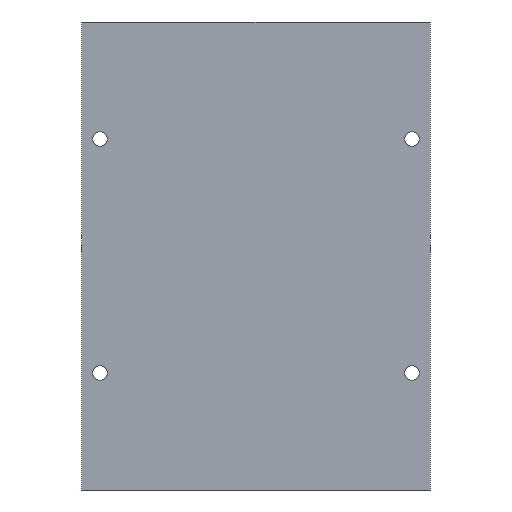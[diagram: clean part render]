
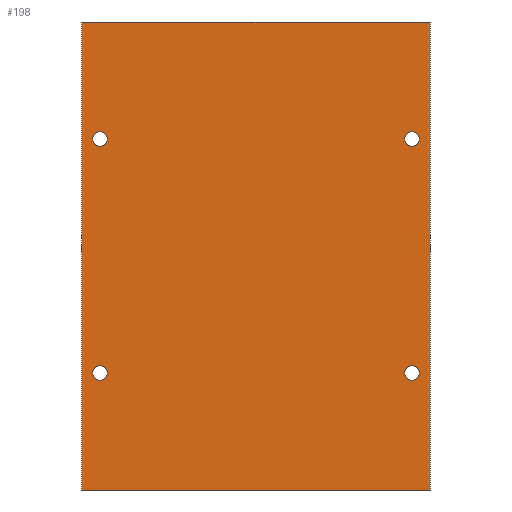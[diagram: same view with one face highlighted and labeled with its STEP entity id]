
A CAD part, front view. The second image highlights one B-rep face of the part: STEP entity #198.
In plain terms, the highlighted planar face has unit normal (0, -1, 0).
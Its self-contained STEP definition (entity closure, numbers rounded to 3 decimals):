
#5 = ORIENTED_EDGE ( 'NONE', *, *, #777, .T. ) ;
#7 = CIRCLE ( 'NONE', #431, 2.65 ) ;
#25 = CARTESIAN_POINT ( 'NONE',  ( -62.5, -3., 168. ) ) ;
#30 = ORIENTED_EDGE ( 'NONE', *, *, #304, .F. ) ;
#42 = ORIENTED_EDGE ( 'NONE', *, *, #496, .T. ) ;
#46 = VERTEX_POINT ( 'NONE', #661 ) ;
#51 = VERTEX_POINT ( 'NONE', #446 ) ;
#52 = VERTEX_POINT ( 'NONE', #376 ) ;
#79 = EDGE_CURVE ( 'NONE', #403, #707, #191, .T. ) ;
#88 = DIRECTION ( 'NONE',  ( 0., 0., 1. ) ) ;
#91 = CIRCLE ( 'NONE', #765, 2.65 ) ;
#96 = EDGE_CURVE ( 'NONE', #51, #553, #632, .T. ) ;
#99 = ORIENTED_EDGE ( 'NONE', *, *, #375, .T. ) ;
#112 = CARTESIAN_POINT ( 'NONE',  ( 56., -3., 42. ) ) ;
#113 = FACE_BOUND ( 'NONE', #878, .T. ) ;
#134 = FACE_BOUND ( 'NONE', #319, .T. ) ;
#147 = VECTOR ( 'NONE', #288, 1000. ) ;
#148 = DIRECTION ( 'NONE',  ( 0., 0., 1. ) ) ;
#151 = VERTEX_POINT ( 'NONE', #613 ) ;
#162 = CARTESIAN_POINT ( 'NONE',  ( 56., -3., 126. ) ) ;
#167 = PLANE ( 'NONE',  #309 ) ;
#184 = DIRECTION ( 'NONE',  ( 1., 0., 0. ) ) ;
#191 = CIRCLE ( 'NONE', #599, 2.65 ) ;
#194 = VERTEX_POINT ( 'NONE', #872 ) ;
#198 = ADVANCED_FACE ( 'NONE', ( #134, #885, #671, #113, #862 ), #167, .F. ) ;
#236 = CARTESIAN_POINT ( 'NONE',  ( 56., -3., 126. ) ) ;
#253 = CARTESIAN_POINT ( 'NONE',  ( -62.5, -3., 168. ) ) ;
#256 = LINE ( 'NONE', #25, #785 ) ;
#260 = CARTESIAN_POINT ( 'NONE',  ( -56., -3., 42. ) ) ;
#277 = EDGE_CURVE ( 'NONE', #52, #649, #7, .T. ) ;
#288 = DIRECTION ( 'NONE',  ( 0., 0., -1. ) ) ;
#293 = EDGE_LOOP ( 'NONE', ( #99, #608 ) ) ;
#295 = VERTEX_POINT ( 'NONE', #552 ) ;
#300 = AXIS2_PLACEMENT_3D ( 'NONE', #936, #786, #357 ) ;
#304 = EDGE_CURVE ( 'NONE', #46, #194, #256, .T. ) ;
#309 = AXIS2_PLACEMENT_3D ( 'NONE', #253, #667, #88 ) ;
#311 = DIRECTION ( 'NONE',  ( 0., 0., 1. ) ) ;
#314 = DIRECTION ( 'NONE',  ( 0., 1., 0. ) ) ;
#319 = EDGE_LOOP ( 'NONE', ( #722, #739 ) ) ;
#323 = LINE ( 'NONE', #903, #462 ) ;
#330 = EDGE_CURVE ( 'NONE', #194, #151, #323, .T. ) ;
#334 = DIRECTION ( 'NONE',  ( 0., 0., 1. ) ) ;
#341 = CARTESIAN_POINT ( 'NONE',  ( -62.5, -3., 168. ) ) ;
#348 = DIRECTION ( 'NONE',  ( 0., 1., 0. ) ) ;
#349 = AXIS2_PLACEMENT_3D ( 'NONE', #236, #449, #148 ) ;
#357 = DIRECTION ( 'NONE',  ( 0., 0., 1. ) ) ;
#365 = CIRCLE ( 'NONE', #628, 2.65 ) ;
#366 = CARTESIAN_POINT ( 'NONE',  ( -56., -3., 126. ) ) ;
#369 = CARTESIAN_POINT ( 'NONE',  ( -62.5, -3., 0. ) ) ;
#375 = EDGE_CURVE ( 'NONE', #707, #403, #91, .T. ) ;
#376 = CARTESIAN_POINT ( 'NONE',  ( 56., -3., 39.35 ) ) ;
#377 = CIRCLE ( 'NONE', #300, 2.65 ) ;
#396 = ORIENTED_EDGE ( 'NONE', *, *, #904, .T. ) ;
#399 = DIRECTION ( 'NONE',  ( 0., 1., 0. ) ) ;
#403 = VERTEX_POINT ( 'NONE', #566 ) ;
#409 = DIRECTION ( 'NONE',  ( 0., 0., -1. ) ) ;
#431 = AXIS2_PLACEMENT_3D ( 'NONE', #112, #399, #334 ) ;
#437 = CARTESIAN_POINT ( 'NONE',  ( 56., -3., 123.35 ) ) ;
#441 = DIRECTION ( 'NONE',  ( 1., 0., 0. ) ) ;
#446 = CARTESIAN_POINT ( 'NONE',  ( 56., -3., 128.65 ) ) ;
#449 = DIRECTION ( 'NONE',  ( 0., 1., 0. ) ) ;
#462 = VECTOR ( 'NONE', #409, 1000. ) ;
#467 = CARTESIAN_POINT ( 'NONE',  ( 56., -3., 42. ) ) ;
#470 = DIRECTION ( 'NONE',  ( 0., 0., 1. ) ) ;
#475 = ORIENTED_EDGE ( 'NONE', *, *, #606, .T. ) ;
#488 = ORIENTED_EDGE ( 'NONE', *, *, #277, .T. ) ;
#496 = EDGE_CURVE ( 'NONE', #46, #538, #572, .T. ) ;
#538 = VERTEX_POINT ( 'NONE', #369 ) ;
#552 = CARTESIAN_POINT ( 'NONE',  ( -56., -3., 39.35 ) ) ;
#553 = VERTEX_POINT ( 'NONE', #437 ) ;
#558 = ORIENTED_EDGE ( 'NONE', *, *, #585, .T. ) ;
#563 = EDGE_LOOP ( 'NONE', ( #5, #488 ) ) ;
#566 = CARTESIAN_POINT ( 'NONE',  ( -56., -3., 123.35 ) ) ;
#568 = VERTEX_POINT ( 'NONE', #581 ) ;
#572 = LINE ( 'NONE', #341, #147 ) ;
#581 = CARTESIAN_POINT ( 'NONE',  ( -56., -3., 44.65 ) ) ;
#585 = EDGE_CURVE ( 'NONE', #538, #151, #870, .T. ) ;
#590 = CARTESIAN_POINT ( 'NONE',  ( -56., -3., 128.65 ) ) ;
#596 = AXIS2_PLACEMENT_3D ( 'NONE', #467, #747, #749 ) ;
#599 = AXIS2_PLACEMENT_3D ( 'NONE', #366, #314, #311 ) ;
#606 = EDGE_CURVE ( 'NONE', #568, #295, #377, .T. ) ;
#608 = ORIENTED_EDGE ( 'NONE', *, *, #79, .T. ) ;
#613 = CARTESIAN_POINT ( 'NONE',  ( 62.5, -3., 0. ) ) ;
#628 = AXIS2_PLACEMENT_3D ( 'NONE', #260, #826, #470 ) ;
#632 = CIRCLE ( 'NONE', #349, 2.65 ) ;
#649 = VERTEX_POINT ( 'NONE', #947 ) ;
#661 = CARTESIAN_POINT ( 'NONE',  ( -62.5, -3., 168. ) ) ;
#667 = DIRECTION ( 'NONE',  ( 0., 1., 0. ) ) ;
#669 = DIRECTION ( 'NONE',  ( 0., 1., 0. ) ) ;
#671 = FACE_BOUND ( 'NONE', #563, .T. ) ;
#698 = EDGE_LOOP ( 'NONE', ( #558, #753, #30, #42 ) ) ;
#707 = VERTEX_POINT ( 'NONE', #590 ) ;
#722 = ORIENTED_EDGE ( 'NONE', *, *, #96, .T. ) ;
#723 = CIRCLE ( 'NONE', #838, 2.65 ) ;
#727 = DIRECTION ( 'NONE',  ( 0., 0., 1. ) ) ;
#730 = CIRCLE ( 'NONE', #596, 2.65 ) ;
#739 = ORIENTED_EDGE ( 'NONE', *, *, #746, .T. ) ;
#746 = EDGE_CURVE ( 'NONE', #553, #51, #723, .T. ) ;
#747 = DIRECTION ( 'NONE',  ( 0., 1., 0. ) ) ;
#749 = DIRECTION ( 'NONE',  ( 0., 0., 1. ) ) ;
#753 = ORIENTED_EDGE ( 'NONE', *, *, #330, .F. ) ;
#765 = AXIS2_PLACEMENT_3D ( 'NONE', #852, #348, #775 ) ;
#775 = DIRECTION ( 'NONE',  ( 0., 0., 1. ) ) ;
#777 = EDGE_CURVE ( 'NONE', #649, #52, #730, .T. ) ;
#785 = VECTOR ( 'NONE', #184, 1000. ) ;
#786 = DIRECTION ( 'NONE',  ( 0., 1., 0. ) ) ;
#792 = CARTESIAN_POINT ( 'NONE',  ( -62.5, -3., 0. ) ) ;
#826 = DIRECTION ( 'NONE',  ( 0., 1., 0. ) ) ;
#838 = AXIS2_PLACEMENT_3D ( 'NONE', #162, #669, #727 ) ;
#852 = CARTESIAN_POINT ( 'NONE',  ( -56., -3., 126. ) ) ;
#862 = FACE_OUTER_BOUND ( 'NONE', #698, .T. ) ;
#870 = LINE ( 'NONE', #792, #950 ) ;
#872 = CARTESIAN_POINT ( 'NONE',  ( 62.5, -3., 168. ) ) ;
#878 = EDGE_LOOP ( 'NONE', ( #475, #396 ) ) ;
#885 = FACE_BOUND ( 'NONE', #293, .T. ) ;
#903 = CARTESIAN_POINT ( 'NONE',  ( 62.5, -3., 168. ) ) ;
#904 = EDGE_CURVE ( 'NONE', #295, #568, #365, .T. ) ;
#936 = CARTESIAN_POINT ( 'NONE',  ( -56., -3., 42. ) ) ;
#947 = CARTESIAN_POINT ( 'NONE',  ( 56., -3., 44.65 ) ) ;
#950 = VECTOR ( 'NONE', #441, 1000. ) ;
